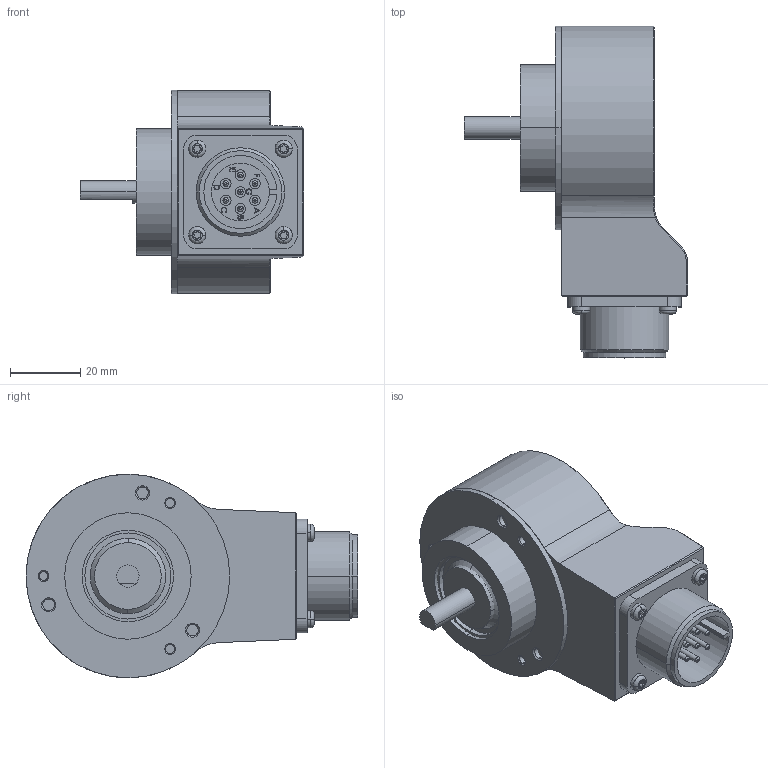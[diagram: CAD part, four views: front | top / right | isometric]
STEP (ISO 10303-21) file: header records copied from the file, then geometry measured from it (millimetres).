
FILE_DESCRIPTION (( 'STEP AP203' ), '1' );
FILE_NAME ('K58I.OXX.XXXXX.XS1C51A.6XRCH.step', '2025-12-08T15:17:52', ( '' ), ( '' ), 'SwSTEP 2.0', 'SolidWorks 2021', '' );
FILE_SCHEMA (( 'CONFIG_CONTROL_DESIGN' ));
Length unit declared in the file: millimetre
Products named in the file (1): K58I.OXX.XXXXX.XS1C51A.6XRCH
Bounding box: 63.56 x 94.5 x 58 mm (x, y, z)
Volume: 147959.7 mm3; surface area: 35812.8 mm2
Topology: 6 solids, 6 shells, 395 faces, 948 edges, 602 vertices
Faces by surface type: cylinder 161, plane 132, bspline 50, cone 34, torus 18
Entity records: 15252 total; most frequent: CARTESIAN_POINT 6100, DIRECTION 1877, ORIENTED_EDGE 1872, EDGE_CURVE 936, AXIS2_PLACEMENT_3D 717, VERTEX_POINT 602, EDGE_LOOP 452, LINE 443
